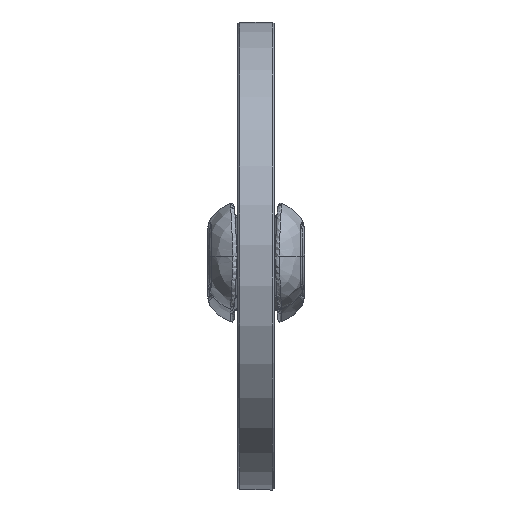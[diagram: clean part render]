
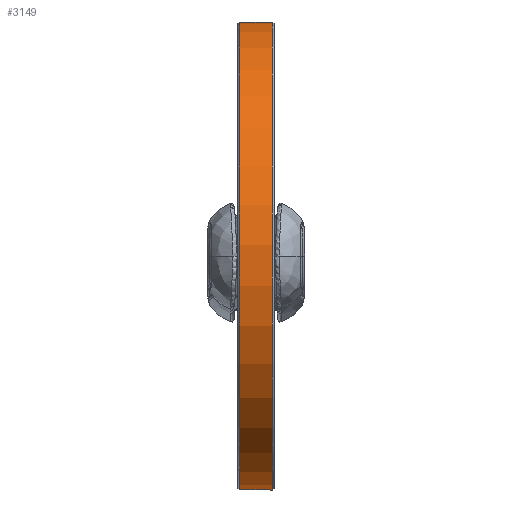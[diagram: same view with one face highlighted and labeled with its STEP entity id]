
A CAD part, top view. The second image highlights one B-rep face of the part: STEP entity #3149.
In plain terms, the highlighted cylindrical face has radius 845 mm (diameter 1690 mm), a full revolution.
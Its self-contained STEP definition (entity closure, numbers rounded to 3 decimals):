
#634=CYLINDRICAL_SURFACE($,#3501,845.);
#762=FACE_BOUND($,#1303,.T.);
#975=FACE_OUTER_BOUND($,#1302,.T.);
#1302=EDGE_LOOP($,(#2882));
#1303=EDGE_LOOP($,(#2883));
#1491=CIRCLE($,#3500,845.);
#1492=CIRCLE($,#3502,845.);
#1763=VERTEX_POINT($,#14283);
#1764=VERTEX_POINT($,#14286);
#2141=EDGE_CURVE($,#1763,#1763,#1491,.T.);
#2142=EDGE_CURVE($,#1764,#1764,#1492,.T.);
#2882=ORIENTED_EDGE($,*,*,#2142,.F.);
#2883=ORIENTED_EDGE($,*,*,#2141,.F.);
#3149=ADVANCED_FACE($,(#975,#762),#634,.T.);
#3500=AXIS2_PLACEMENT_3D($,#14284,#4225,#4226);
#3501=AXIS2_PLACEMENT_3D($,#14285,#4227,#4228);
#3502=AXIS2_PLACEMENT_3D($,#14287,#4229,#4230);
#4225=DIRECTION('center_axis',(0.,0.,-1.));
#4226=DIRECTION('ref_axis',(-1.,0.,0.));
#4227=DIRECTION('center_axis',(0.,0.,1.));
#4228=DIRECTION('ref_axis',(-1.,0.,0.));
#4229=DIRECTION('center_axis',(0.,0.,1.));
#4230=DIRECTION('ref_axis',(-1.,0.,0.));
#14283=CARTESIAN_POINT('',(845.,0.,-59.));
#14284=CARTESIAN_POINT('Origin',(0.,0.,-59.));
#14285=CARTESIAN_POINT('Origin',(0.,0.,0.));
#14286=CARTESIAN_POINT('',(845.,0.,59.));
#14287=CARTESIAN_POINT('Origin',(0.,0.,59.));
